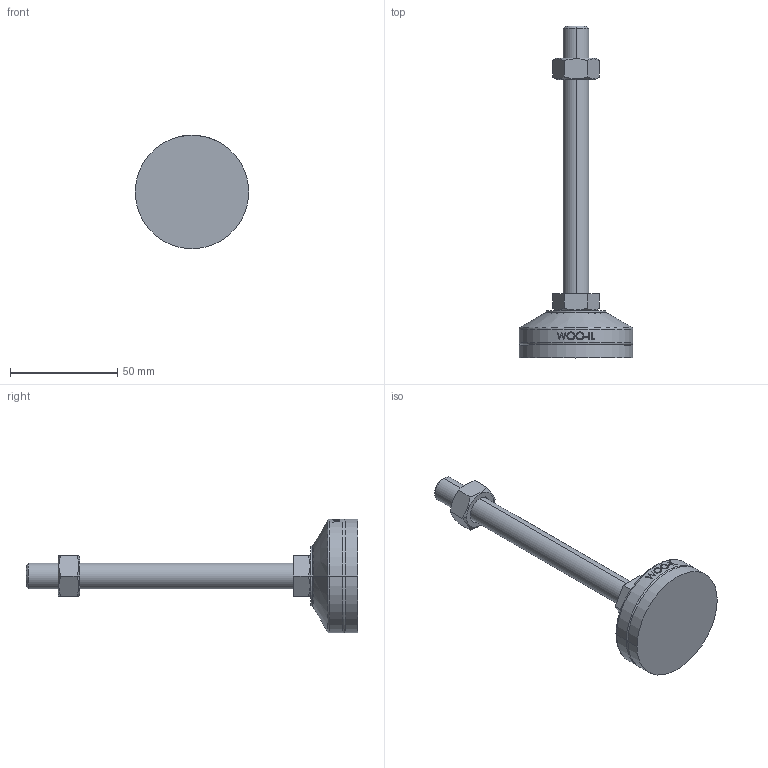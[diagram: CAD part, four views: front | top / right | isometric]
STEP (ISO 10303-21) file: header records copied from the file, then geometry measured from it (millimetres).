
FILE_DESCRIPTION (( 'STEP AP214' ), '1' );
FILE_NAME ('MFR53-M12-125.step', '2021-01-13T05:34:57', ( '' ), ( '' ), 'SwSTEP 2.0', 'SolidWorks 2019', '' );
FILE_SCHEMA (( 'AUTOMOTIVE_DESIGN' ));
Length unit declared in the file: millimetre
Products named in the file (2): MFR53-M12-125
Bounding box: 53 x 155 x 53 mm (x, y, z)
Volume: 59503.2 mm3; surface area: 18577.7 mm2
Topology: 4 solids, 4 shells, 103 faces, 235 edges, 150 vertices
Faces by surface type: plane 49, cylinder 18, bspline 16, cone 14, torus 6
Entity records: 4309 total; most frequent: CARTESIAN_POINT 2036, ORIENTED_EDGE 470, DIRECTION 417, EDGE_CURVE 235, AXIS2_PLACEMENT_3D 159, VERTEX_POINT 150, EDGE_LOOP 115, ADVANCED_FACE 103
